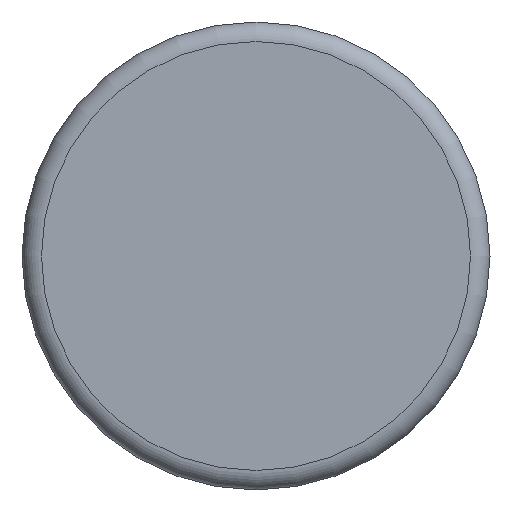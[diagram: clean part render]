
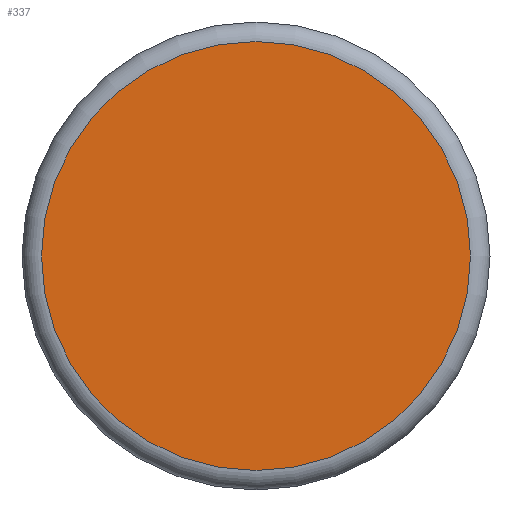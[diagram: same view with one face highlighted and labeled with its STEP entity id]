
A CAD part, left-side view. The second image highlights one B-rep face of the part: STEP entity #337.
In plain terms, the highlighted planar face has unit normal (-1, 0, 0).
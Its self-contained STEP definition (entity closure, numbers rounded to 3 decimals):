
#17 = EDGE_LOOP ( 'NONE', ( #287 ) ) ;
#32 = AXIS2_PLACEMENT_3D ( 'NONE', #300, #114, #236 ) ;
#114 = DIRECTION ( 'NONE',  ( 1., 0., 0. ) ) ;
#155 = CARTESIAN_POINT ( 'NONE',  ( -232., 0., -33. ) ) ;
#165 = DIRECTION ( 'NONE',  ( 0., 0., -1. ) ) ;
#178 = EDGE_CURVE ( 'NONE', #242, #242, #183, .T. ) ;
#183 = CIRCLE ( 'NONE', #235, 33. ) ;
#197 = FACE_OUTER_BOUND ( 'NONE', #17, .T. ) ;
#208 = DIRECTION ( 'NONE',  ( -1., 0., 0. ) ) ;
#235 = AXIS2_PLACEMENT_3D ( 'NONE', #285, #208, #165 ) ;
#236 = DIRECTION ( 'NONE',  ( 0., 0., -1. ) ) ;
#242 = VERTEX_POINT ( 'NONE', #155 ) ;
#285 = CARTESIAN_POINT ( 'NONE',  ( -232., 0., 0. ) ) ;
#287 = ORIENTED_EDGE ( 'NONE', *, *, #178, .T. ) ;
#300 = CARTESIAN_POINT ( 'NONE',  ( -232., 0., 0. ) ) ;
#336 = PLANE ( 'NONE',  #32 ) ;
#337 = ADVANCED_FACE ( 'NONE', ( #197 ), #336, .F. ) ;
